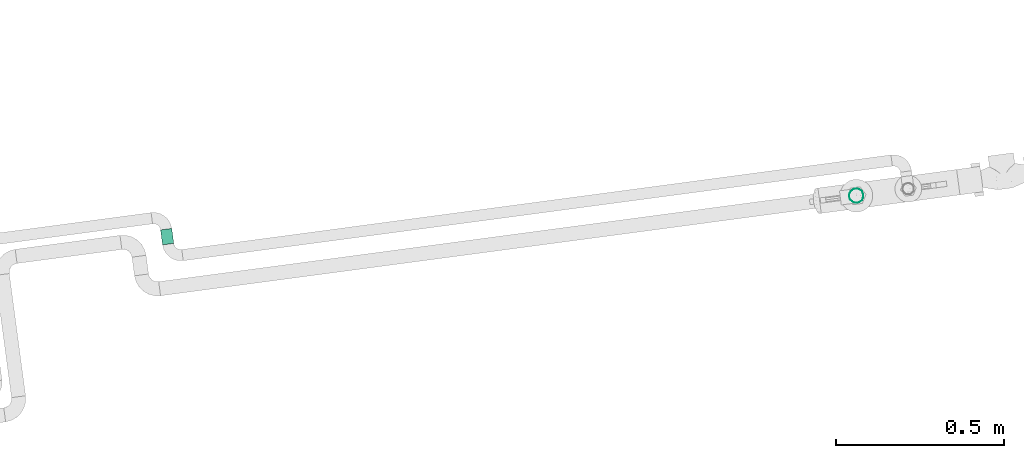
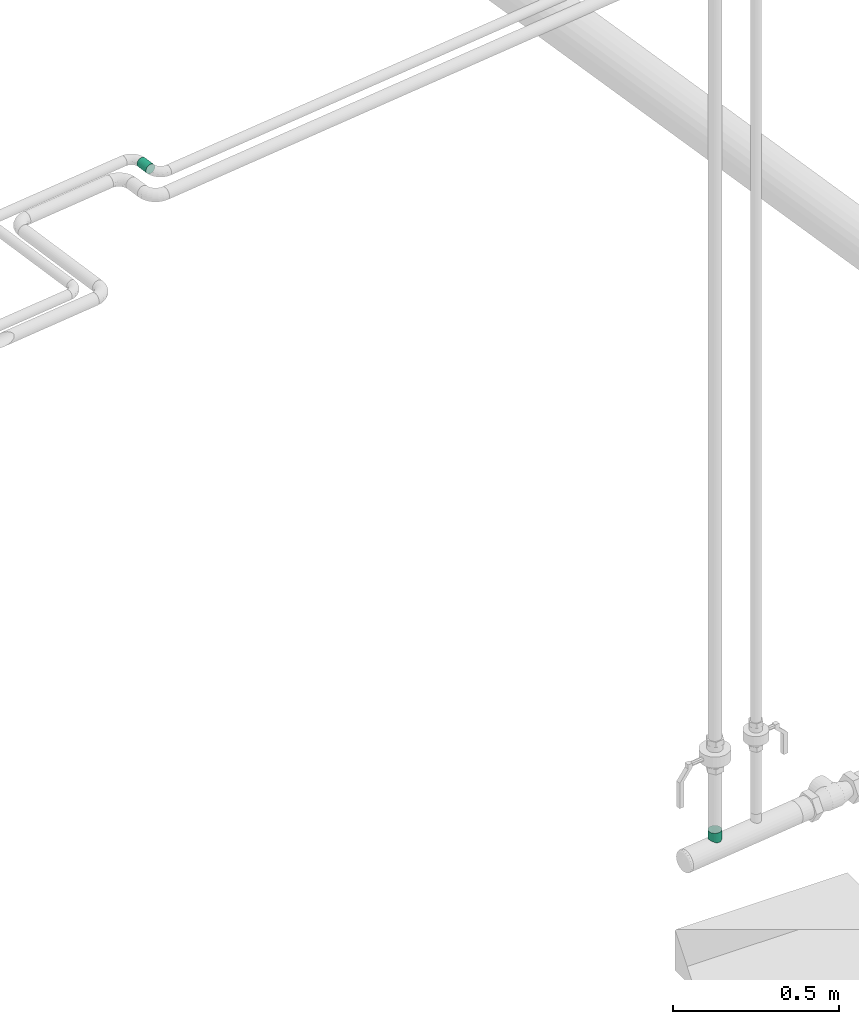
# One storey, part 360 of 374: 2 flow segments.
"""IFC2X3 building model written with IfcOpenShell, lengths in metres."""

from ifc_helpers import new_model, si_unit, direction, origin, place, context, subcontext, project, spatial, open_shell, surface_model, source, transform, mapped, element, save


model = new_model("IFC2X3")

# Units and contexts
model_context = context("Model", 3, precision=1e-05, world=origin(), true_north=direction((-0.4480736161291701, 0.8939966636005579)))
body_context = subcontext(model_context, "Body", "Model", "MODEL_VIEW")
ifc_project = project(units=[si_unit("LENGTHUNIT", "METRE"), si_unit("AREAUNIT", "SQUARE_METRE"), si_unit("VOLUMEUNIT", "CUBIC_METRE"), si_unit("PLANEANGLEUNIT", "RADIAN"), si_unit("THERMODYNAMICTEMPERATUREUNIT", "KELVIN"), si_unit("MASSUNIT", "GRAM", prefix="KILO"), si_unit("TIMEUNIT", "SECOND")], contexts=[model_context])

# Site, building, storey
site_placement = place(None, origin())
site = spatial("IfcSite", under=ifc_project, at=site_placement, Name="Site 1", CompositionType="ELEMENT")
building_placement = place(site_placement, origin())
building = spatial("IfcBuilding", under=site, at=building_placement, Name="Undefined", CompositionType="ELEMENT")
storey_placement = place(building_placement, origin())
storey = spatial("IfcBuildingStorey", under=building, at=storey_placement, Name="Rez de chauss\x8ee", CompositionType="ELEMENT", Elevation=0.0)

# Flow segments
shared_shape_1 = source(origin(), body_context, "Body", "SurfaceModel", [
    surface_model("IfcFaceBasedSurfaceModel", [(0.0003976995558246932, 0.005534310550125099, 0.0), (0.0, 0.0, 0.0), (0.03039769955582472, -3.552713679e-15, -1.4210854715e-14), (0.03039769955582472, 0.005534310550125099, 0.0), (-0.0011085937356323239, -0.005345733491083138, -0.00143238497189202), (0.03039769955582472, -0.005345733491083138, -0.00143238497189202), (-0.00267970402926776, -0.010138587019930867, -0.004199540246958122), (0.03039769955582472, -0.010138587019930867, -0.004199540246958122), (-0.004324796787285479, -0.014051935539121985, -0.00811288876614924), (0.03039769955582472, -0.014051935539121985, -0.00811288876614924), (-0.005582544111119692, -0.01681909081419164, -0.012905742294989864), (0.03039769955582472, -0.01681909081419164, -0.012905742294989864), (-0.006055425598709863, -0.018251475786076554, -0.01825147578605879), (0.03039769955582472, -0.018251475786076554, -0.01825147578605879), (-0.005582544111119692, -0.018251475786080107, -0.023785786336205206), (0.03039769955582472, -0.018251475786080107, -0.023785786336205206), (-0.004324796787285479, -0.016819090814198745, -0.029131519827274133), (0.03039769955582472, -0.016819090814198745, -0.029131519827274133), (-0.00267970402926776, -0.014051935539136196, -0.033924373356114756), (0.03039769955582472, -0.014051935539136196, -0.033924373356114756), (-0.0011085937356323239, -0.01013858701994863, -0.037837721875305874), (0.03039769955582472, -0.01013858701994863, -0.037837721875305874), (0.0, -0.005345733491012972, -0.040604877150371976), (0.03039769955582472, -0.005345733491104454, -0.040604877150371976), (0.0003976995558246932, -3.5527136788e-14, -0.04203726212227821), (0.03039769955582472, -3.5527136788e-14, -0.04203726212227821), (0.0, 0.005534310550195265, -0.04203726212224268), (0.03039769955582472, 0.005534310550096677, -0.04203726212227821), (-0.0011085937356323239, 0.010880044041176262, -0.04060487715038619), (0.03039769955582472, 0.010880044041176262, -0.04060487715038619), (-0.00267970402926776, 0.01567289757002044, -0.037837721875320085), (0.03039769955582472, 0.01567289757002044, -0.037837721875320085), (-0.004324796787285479, 0.019586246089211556, -0.03392437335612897), (0.03039769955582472, 0.019586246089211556, -0.03392437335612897), (-0.005582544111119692, 0.02235340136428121, -0.029131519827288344), (0.03039769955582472, 0.02235340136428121, -0.029131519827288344), (-0.006055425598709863, 0.023785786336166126, -0.023785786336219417), (0.03039769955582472, 0.023785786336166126, -0.023785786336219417), (-0.005582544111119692, 0.023785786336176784, -0.018251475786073), (0.03039769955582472, 0.023785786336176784, -0.018251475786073), (-0.004324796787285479, 0.02235340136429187, -0.012905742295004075), (0.03039769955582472, 0.02235340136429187, -0.012905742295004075), (-0.00267970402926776, 0.01958624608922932, -0.00811288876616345), (0.03039769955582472, 0.01958624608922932, -0.00811288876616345), (-0.0011085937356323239, 0.015672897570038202, -0.004199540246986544), (0.03039769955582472, 0.015672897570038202, -0.004199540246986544), (0.0, 0.010880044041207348, -0.0014323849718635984), (0.03039769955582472, 0.010880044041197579, -0.001432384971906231)], [open_shell([[[0, 1, 2, 3]], [[1, 4, 5, 2]], [[4, 6, 7, 5]], [[6, 8, 9, 7]], [[8, 10, 11, 9]], [[10, 12, 13, 11]], [[12, 14, 15, 13]], [[14, 16, 17, 15]], [[16, 18, 19, 17]], [[18, 20, 21, 19]], [[20, 22, 23, 21]], [[22, 24, 25, 23]], [[24, 26, 27, 25]], [[26, 28, 29, 27]], [[28, 30, 31, 29]], [[30, 32, 33, 31]], [[32, 34, 35, 33]], [[34, 36, 37, 35]], [[36, 38, 39, 37]], [[38, 40, 41, 39]], [[40, 42, 43, 41]], [[42, 44, 45, 43]], [[44, 46, 47, 45]], [[46, 0, 3, 47]]])]),
])
flow_segment_1_placement = place(storey_placement, origin())
element("IfcFlowSegment", 1, at=flow_segment_1_placement, inside=storey, Name="Piquage sur circulaire 90°", ObjectType="Piquage sur circulaire 90°", context=body_context, shape_type="MappedRepresentation", body=[
    mapped(shared_shape_1, transform((65.9207785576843, 20.329675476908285, 0.738085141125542), x_axis=(0.0, 0.0, 1.0), y_axis=(-0.26050450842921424, 0.965472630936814, 0.0), z_axis=(-0.965472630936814, -0.26050450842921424, 0.0))),
])
shared_shape_2 = source(origin(), body_context, "Body", "SurfaceModel", [
    surface_model("IfcFaceBasedSurfaceModel", [(0.044973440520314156, -1.4210854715e-14, 0.0), (0.04497344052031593, 0.004398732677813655, 0.0), (0.0, 0.004398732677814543, 0.0), (0.0, 0.0, 0.0), (0.04497344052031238, 0.008647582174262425, -0.0011384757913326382), (0.0, 0.00864758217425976, -0.0011384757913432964), (0.044973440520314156, 0.012456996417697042, -0.003337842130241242), (0.0, 0.012456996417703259, -0.0033378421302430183), (0.044973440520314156, 0.01556737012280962, -0.006448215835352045), (0.0, 0.015567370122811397, -0.006448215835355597), (0.04497344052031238, 0.017766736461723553, -0.01025763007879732), (0.0, 0.01776673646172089, -0.01025763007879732), (0.04497344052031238, 0.018905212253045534, -0.014506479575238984), (0.0, 0.018905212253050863, -0.01450647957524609), (0.04497344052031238, 0.018905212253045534, -0.01890521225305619), (0.0, 0.018905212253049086, -0.01890521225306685), (0.044973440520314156, 0.017766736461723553, -0.02315406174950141), (0.0, 0.017766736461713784, -0.023154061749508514), (0.044973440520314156, 0.01556737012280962, -0.026963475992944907), (0.0, 0.01556737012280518, -0.026963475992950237), (0.04497344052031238, 0.012456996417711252, -0.03007384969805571), (0.0, 0.012456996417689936, -0.030073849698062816), (0.04497344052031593, 0.008647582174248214, -0.03227321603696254), (0.0, 0.008647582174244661, -0.03227321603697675), (0.044973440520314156, 0.004398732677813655, -0.03341169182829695), (0.0, 0.00439873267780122, -0.03341169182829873), (0.04497344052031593, -1.4210854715e-14, -0.03341169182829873), (0.0, -1.5099033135e-14, -0.03341169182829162), (0.044973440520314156, -0.00424884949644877, -0.032273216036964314), (0.0, -0.004248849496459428, -0.03227321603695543), (0.04497344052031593, -0.008058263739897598, -0.03007384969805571), (0.0, -0.008058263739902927, -0.03007384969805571), (0.04497344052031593, -0.011168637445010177, -0.026963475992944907), (0.0, -0.011168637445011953, -0.02696347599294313), (0.04497344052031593, -0.01336800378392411, -0.023154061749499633), (0.0, -0.013368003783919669, -0.023154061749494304), (0.044973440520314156, -0.01450647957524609, -0.01890521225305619), (0.0, -0.01450647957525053, -0.01890521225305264), (0.04497344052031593, -0.01450647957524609, -0.01450647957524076), (0.0, -0.014506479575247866, -0.014506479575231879), (0.04497344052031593, -0.01336800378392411, -0.010257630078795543), (0.0, -0.013368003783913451, -0.010257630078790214), (0.04497344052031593, -0.011168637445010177, -0.006448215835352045), (0.0, -0.01116863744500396, -0.0064482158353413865), (0.044973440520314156, -0.008058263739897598, -0.003337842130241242), (0.0, -0.008058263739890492, -0.003337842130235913), (0.04497344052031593, -0.00424884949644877, -0.0011384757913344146), (0.0, -0.004248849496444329, -0.00113847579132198)], [open_shell([[[0, 1, 2, 3]], [[1, 4, 5, 2]], [[4, 6, 7, 5]], [[6, 8, 9, 7]], [[8, 10, 11, 9]], [[10, 12, 13, 11]], [[12, 14, 15, 13]], [[14, 16, 17, 15]], [[16, 18, 19, 17]], [[18, 20, 21, 19]], [[20, 22, 23, 21]], [[22, 24, 25, 23]], [[24, 26, 27, 25]], [[26, 28, 29, 27]], [[28, 30, 31, 29]], [[30, 32, 33, 31]], [[32, 34, 35, 33]], [[34, 36, 37, 35]], [[36, 38, 39, 37]], [[38, 40, 41, 39]], [[40, 42, 43, 41]], [[42, 44, 45, 43]], [[44, 46, 47, 45]], [[46, 0, 3, 47]]])]),
])
flow_segment_2_placement = place(storey_placement, origin())
element("IfcFlowSegment", 2, at=flow_segment_2_placement, inside=storey, Name="Tube acier d'après DIN 2448", ObjectType="Tube acier d'après DIN 2448", context=body_context, shape_type="MappedRepresentation", body=[
    mapped(shared_shape_2, transform((63.88551346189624, 20.2383831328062, 3.9882904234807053), x_axis=(0.13225639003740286, -0.9912155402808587, 0.0), y_axis=(-0.9827355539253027, -0.1311249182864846, 0.13052619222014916), z_axis=(-0.12937959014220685, -0.017262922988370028, -0.9914448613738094))),
])

save(model, "model.ifc")
